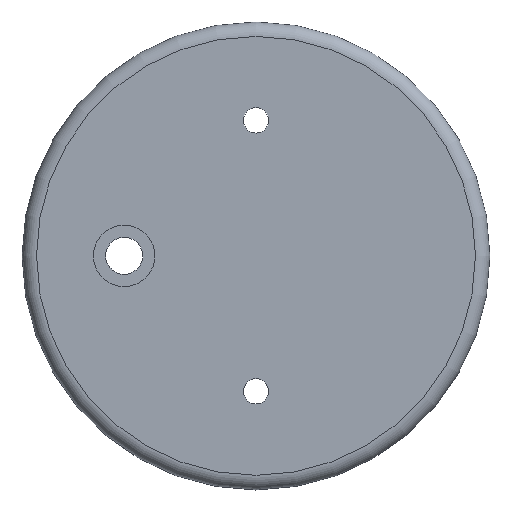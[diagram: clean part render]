
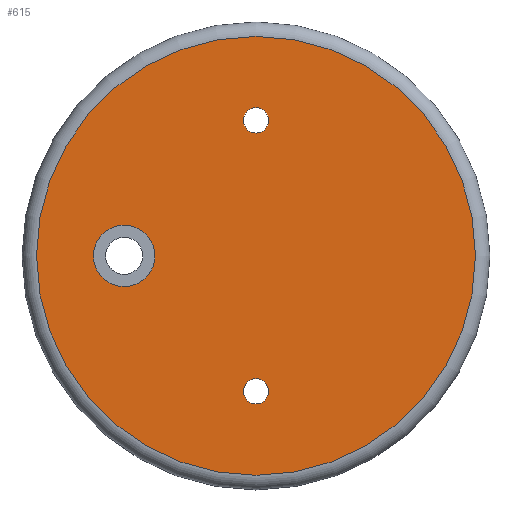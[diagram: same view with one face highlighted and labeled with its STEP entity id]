
A CAD part, top view. The second image highlights one B-rep face of the part: STEP entity #615.
In plain terms, the highlighted planar face has unit normal (0, 0, 1).
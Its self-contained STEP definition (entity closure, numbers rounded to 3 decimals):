
#257 = CYLINDRICAL_SURFACE('',#258,7.);
#258 = AXIS2_PLACEMENT_3D('',#259,#260,#261);
#259 = CARTESIAN_POINT('',(0.,-75.,1.));
#260 = DIRECTION('',(0.,0.,-1.));
#261 = DIRECTION('',(-1.,0.,-0.));
#292 = CYLINDRICAL_SURFACE('',#293,7.);
#293 = AXIS2_PLACEMENT_3D('',#294,#295,#296);
#294 = CARTESIAN_POINT('',(0.,75.,1.));
#295 = DIRECTION('',(0.,0.,-1.));
#296 = DIRECTION('',(-1.,0.,-0.));
#418 = VERTEX_POINT('',#419);
#419 = CARTESIAN_POINT('',(-7.,-75.,0.));
#440 = EDGE_CURVE('',#418,#418,#441,.T.);
#441 = SURFACE_CURVE('',#442,(#447,#454),.PCURVE_S1.);
#442 = CIRCLE('',#443,7.);
#443 = AXIS2_PLACEMENT_3D('',#444,#445,#446);
#444 = CARTESIAN_POINT('',(0.,-75.,0.));
#445 = DIRECTION('',(0.,0.,-1.));
#446 = DIRECTION('',(-1.,0.,-0.));
#447 = PCURVE('',#257,#448);
#448 = DEFINITIONAL_REPRESENTATION('',(#449),#453);
#449 = LINE('',#450,#451);
#450 = CARTESIAN_POINT('',(0.,1.));
#451 = VECTOR('',#452,1.);
#452 = DIRECTION('',(1.,0.));
#453 = ( GEOMETRIC_REPRESENTATION_CONTEXT(2) 
PARAMETRIC_REPRESENTATION_CONTEXT() REPRESENTATION_CONTEXT('2D SPACE',''
  ) );
#454 = PCURVE('',#455,#460);
#455 = PLANE('',#456);
#456 = AXIS2_PLACEMENT_3D('',#457,#458,#459);
#457 = CARTESIAN_POINT('',(0.,0.,0.));
#458 = DIRECTION('',(0.,0.,1.));
#459 = DIRECTION('',(1.,0.,-0.));
#460 = DEFINITIONAL_REPRESENTATION('',(#461),#469);
#461 = ( BOUNDED_CURVE() B_SPLINE_CURVE(2,(#462,#463,#464,#465,#466,#467
,#468),.UNSPECIFIED.,.T.,.F.) B_SPLINE_CURVE_WITH_KNOTS((1,2,2,2,2,1),(
    -2.094,0.,2.094,4.189,6.283,
8.378),.UNSPECIFIED.) CURVE() GEOMETRIC_REPRESENTATION_ITEM() 
RATIONAL_B_SPLINE_CURVE((1.,0.5,1.,0.5,1.,0.5,1.)) REPRESENTATION_ITEM(
  '') );
#462 = CARTESIAN_POINT('',(-7.,-75.));
#463 = CARTESIAN_POINT('',(-7.,-62.876));
#464 = CARTESIAN_POINT('',(3.5,-68.938));
#465 = CARTESIAN_POINT('',(14.,-75.));
#466 = CARTESIAN_POINT('',(3.5,-81.062));
#467 = CARTESIAN_POINT('',(-7.,-87.124));
#468 = CARTESIAN_POINT('',(-7.,-75.));
#469 = ( GEOMETRIC_REPRESENTATION_CONTEXT(2) 
PARAMETRIC_REPRESENTATION_CONTEXT() REPRESENTATION_CONTEXT('2D SPACE',''
  ) );
#477 = VERTEX_POINT('',#478);
#478 = CARTESIAN_POINT('',(-7.,75.,0.));
#499 = EDGE_CURVE('',#477,#477,#500,.T.);
#500 = SURFACE_CURVE('',#501,(#506,#513),.PCURVE_S1.);
#501 = CIRCLE('',#502,7.);
#502 = AXIS2_PLACEMENT_3D('',#503,#504,#505);
#503 = CARTESIAN_POINT('',(0.,75.,0.));
#504 = DIRECTION('',(0.,0.,-1.));
#505 = DIRECTION('',(-1.,0.,-0.));
#506 = PCURVE('',#292,#507);
#507 = DEFINITIONAL_REPRESENTATION('',(#508),#512);
#508 = LINE('',#509,#510);
#509 = CARTESIAN_POINT('',(0.,1.));
#510 = VECTOR('',#511,1.);
#511 = DIRECTION('',(1.,0.));
#512 = ( GEOMETRIC_REPRESENTATION_CONTEXT(2) 
PARAMETRIC_REPRESENTATION_CONTEXT() REPRESENTATION_CONTEXT('2D SPACE',''
  ) );
#513 = PCURVE('',#455,#514);
#514 = DEFINITIONAL_REPRESENTATION('',(#515),#523);
#515 = ( BOUNDED_CURVE() B_SPLINE_CURVE(2,(#516,#517,#518,#519,#520,#521
,#522),.UNSPECIFIED.,.T.,.F.) B_SPLINE_CURVE_WITH_KNOTS((1,2,2,2,2,1),(
    -2.094,0.,2.094,4.189,6.283,
8.378),.UNSPECIFIED.) CURVE() GEOMETRIC_REPRESENTATION_ITEM() 
RATIONAL_B_SPLINE_CURVE((1.,0.5,1.,0.5,1.,0.5,1.)) REPRESENTATION_ITEM(
  '') );
#516 = CARTESIAN_POINT('',(-7.,75.));
#517 = CARTESIAN_POINT('',(-7.,87.124));
#518 = CARTESIAN_POINT('',(3.5,81.062));
#519 = CARTESIAN_POINT('',(14.,75.));
#520 = CARTESIAN_POINT('',(3.5,68.938));
#521 = CARTESIAN_POINT('',(-7.,62.876));
#522 = CARTESIAN_POINT('',(-7.,75.));
#523 = ( GEOMETRIC_REPRESENTATION_CONTEXT(2) 
PARAMETRIC_REPRESENTATION_CONTEXT() REPRESENTATION_CONTEXT('2D SPACE',''
  ) );
#546 = CYLINDRICAL_SURFACE('',#547,17.);
#547 = AXIS2_PLACEMENT_3D('',#548,#549,#550);
#548 = CARTESIAN_POINT('',(-73.,0.,1.));
#549 = DIRECTION('',(0.,0.,-1.));
#550 = DIRECTION('',(-1.,0.,-0.));
#615 = ADVANCED_FACE('',(#616,#647,#650,#653),#455,.T.);
#616 = FACE_BOUND('',#617,.F.);
#617 = EDGE_LOOP('',(#618));
#618 = ORIENTED_EDGE('',*,*,#619,.F.);
#619 = EDGE_CURVE('',#620,#620,#622,.T.);
#620 = VERTEX_POINT('',#621);
#621 = CARTESIAN_POINT('',(121.5,0.,0.));
#622 = SURFACE_CURVE('',#623,(#628,#635),.PCURVE_S1.);
#623 = CIRCLE('',#624,121.5);
#624 = AXIS2_PLACEMENT_3D('',#625,#626,#627);
#625 = CARTESIAN_POINT('',(0.,0.,0.));
#626 = DIRECTION('',(0.,-0.,1.));
#627 = DIRECTION('',(1.,0.,0.));
#628 = PCURVE('',#455,#629);
#629 = DEFINITIONAL_REPRESENTATION('',(#630),#634);
#630 = CIRCLE('',#631,121.5);
#631 = AXIS2_PLACEMENT_2D('',#632,#633);
#632 = CARTESIAN_POINT('',(0.,0.));
#633 = DIRECTION('',(1.,-0.));
#634 = ( GEOMETRIC_REPRESENTATION_CONTEXT(2) 
PARAMETRIC_REPRESENTATION_CONTEXT() REPRESENTATION_CONTEXT('2D SPACE',''
  ) );
#635 = PCURVE('',#636,#641);
#636 = TOROIDAL_SURFACE('',#637,121.5,8.);
#637 = AXIS2_PLACEMENT_3D('',#638,#639,#640);
#638 = CARTESIAN_POINT('',(0.,0.,-8.));
#639 = DIRECTION('',(-0.,0.,-1.));
#640 = DIRECTION('',(1.,0.,0.));
#641 = DEFINITIONAL_REPRESENTATION('',(#642),#646);
#642 = LINE('',#643,#644);
#643 = CARTESIAN_POINT('',(-0.,4.712));
#644 = VECTOR('',#645,1.);
#645 = DIRECTION('',(-1.,0.));
#646 = ( GEOMETRIC_REPRESENTATION_CONTEXT(2) 
PARAMETRIC_REPRESENTATION_CONTEXT() REPRESENTATION_CONTEXT('2D SPACE',''
  ) );
#647 = FACE_BOUND('',#648,.F.);
#648 = EDGE_LOOP('',(#649));
#649 = ORIENTED_EDGE('',*,*,#440,.F.);
#650 = FACE_BOUND('',#651,.F.);
#651 = EDGE_LOOP('',(#652));
#652 = ORIENTED_EDGE('',*,*,#499,.F.);
#653 = FACE_BOUND('',#654,.F.);
#654 = EDGE_LOOP('',(#655));
#655 = ORIENTED_EDGE('',*,*,#656,.F.);
#656 = EDGE_CURVE('',#657,#657,#659,.T.);
#657 = VERTEX_POINT('',#658);
#658 = CARTESIAN_POINT('',(-90.,0.,0.));
#659 = SURFACE_CURVE('',#660,(#665,#676),.PCURVE_S1.);
#660 = CIRCLE('',#661,17.);
#661 = AXIS2_PLACEMENT_3D('',#662,#663,#664);
#662 = CARTESIAN_POINT('',(-73.,0.,0.));
#663 = DIRECTION('',(0.,0.,-1.));
#664 = DIRECTION('',(-1.,0.,-0.));
#665 = PCURVE('',#455,#666);
#666 = DEFINITIONAL_REPRESENTATION('',(#667),#675);
#667 = ( BOUNDED_CURVE() B_SPLINE_CURVE(2,(#668,#669,#670,#671,#672,#673
,#674),.UNSPECIFIED.,.T.,.F.) B_SPLINE_CURVE_WITH_KNOTS((1,2,2,2,2,1),(
    -2.094,0.,2.094,4.189,6.283,
8.378),.UNSPECIFIED.) CURVE() GEOMETRIC_REPRESENTATION_ITEM() 
RATIONAL_B_SPLINE_CURVE((1.,0.5,1.,0.5,1.,0.5,1.)) REPRESENTATION_ITEM(
  '') );
#668 = CARTESIAN_POINT('',(-90.,0.));
#669 = CARTESIAN_POINT('',(-90.,29.445));
#670 = CARTESIAN_POINT('',(-64.5,14.722));
#671 = CARTESIAN_POINT('',(-39.,0.));
#672 = CARTESIAN_POINT('',(-64.5,-14.722));
#673 = CARTESIAN_POINT('',(-90.,-29.445));
#674 = CARTESIAN_POINT('',(-90.,0.));
#675 = ( GEOMETRIC_REPRESENTATION_CONTEXT(2) 
PARAMETRIC_REPRESENTATION_CONTEXT() REPRESENTATION_CONTEXT('2D SPACE',''
  ) );
#676 = PCURVE('',#546,#677);
#677 = DEFINITIONAL_REPRESENTATION('',(#678),#682);
#678 = LINE('',#679,#680);
#679 = CARTESIAN_POINT('',(0.,1.));
#680 = VECTOR('',#681,1.);
#681 = DIRECTION('',(1.,0.));
#682 = ( GEOMETRIC_REPRESENTATION_CONTEXT(2) 
PARAMETRIC_REPRESENTATION_CONTEXT() REPRESENTATION_CONTEXT('2D SPACE',''
  ) );
